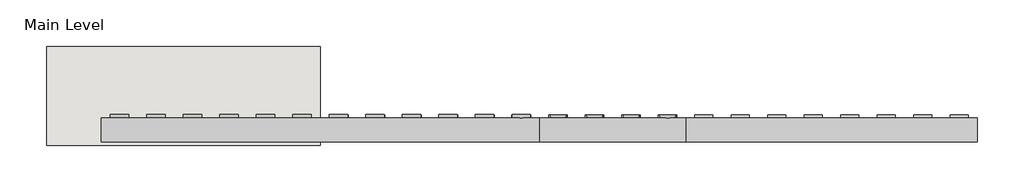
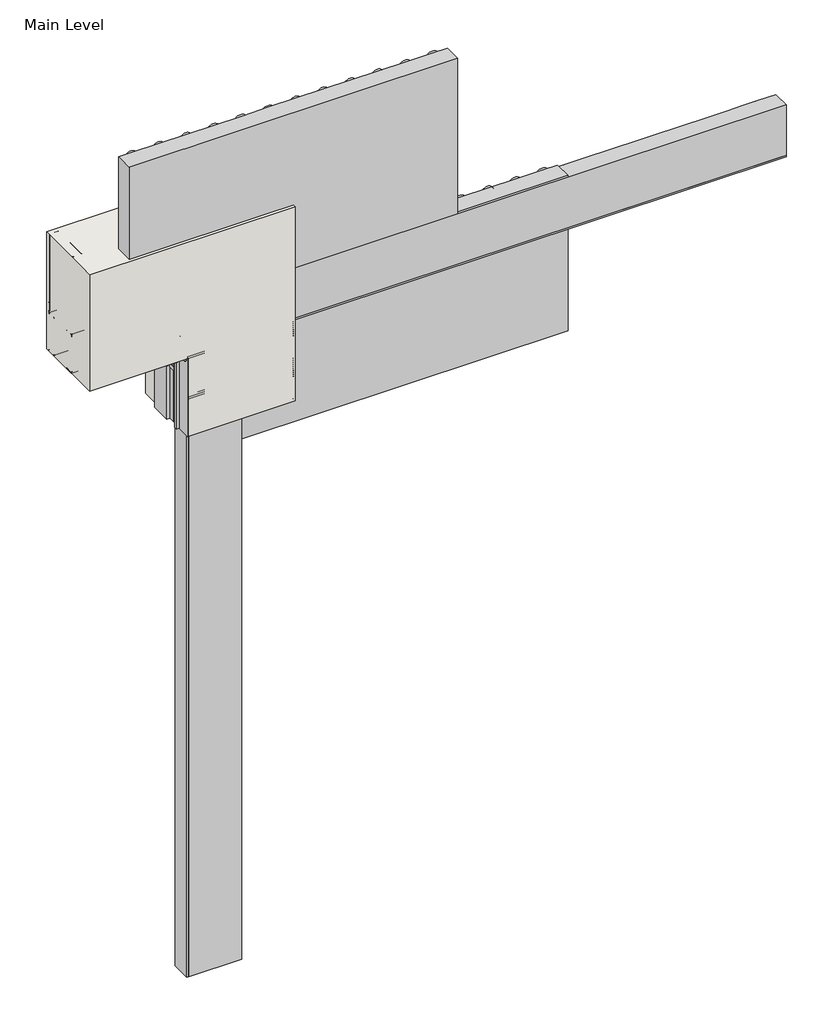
# One storey, incomplete: 26 proxies, 1 wall.
"""IFC4 building model written with IfcOpenShell, lengths in millimetres."""

from ifc_helpers import new_model, si_unit, frame, origin, place, context, project, spatial, polyline, outline, extrude, transform, mapped, element, save
from components import generic_models_31547c53, generic_models_0b6704b8, generic_models_233bf4a6, generic_models_0795693d, generic_models_cb092f88, generic_models_04f31e3c, generic_models_08e6521c, generic_models_d28646c3, proxy_4c3b85e5, proxy_50213ae0, proxy_cc65e3d2, finish_coat_filler_finish_coat_filler_f99f7fa1, masonry_sill_masonry_sill_15b803c6, masonry_sill1_masonry_sill_665cf46e, masonry_sill2_masonry_sill_6bf34fb1, proxy_a3fd9b0b, proxy_3a0ad636, proxy_0073da47, sealant_sealant_3a8dd322, window_header_window_header_abd4ef46, wood_blocking_5320d369

model = new_model("IFC4")

# Units and contexts
model_context = context("Model", 3, world=origin())
ifc_project = project(units=[si_unit("LENGTHUNIT", "METRE", prefix="MILLI")], contexts=[model_context])

# Site, building, storey
site = spatial("IfcSite", under=ifc_project)
building = spatial("IfcBuilding", under=site)
storey = spatial("IfcBuildingStorey", under=building, Name="Main Level", Elevation=0.0)

# Proxies
placement = place(None, origin())
generic_models_shape = generic_models_31547c53(model_context)
element("IfcBuildingElementProxy", 1, Name="Durabond Generic Model Sealant Vent : Durabond Generic Model Sealant Vent", ObjectType="Durabond Generic Model Sealant Vent : Durabond Generic Model Sealant Vent", at=placement, inside=storey, context=model_context, shape_type="MappedRepresentation", body=[
    mapped(generic_models_shape, transform((26800.7195523, 547.6393211, 304.2607023), x_axis=(1.0, 0.0, 0.0), y_axis=(0.0, 0.08715574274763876, -0.9961946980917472), z_axis=(0.0, 0.9961946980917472, 0.08715574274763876))),
])
generic_models_2_shape = generic_models_0b6704b8(model_context)
element("IfcBuildingElementProxy", 2, Name="Durabond Generic Model Insulation Adhesive Flat : Durabond Generic Model Insulation Adhesive Flat", ObjectType="Durabond Generic Model Insulation Adhesive Flat : Durabond Generic Model Insulation Adhesive Flat", at=placement, inside=storey, context=model_context, shape_type="MappedRepresentation", body=[
    mapped(generic_models_2_shape, transform((26692.3726773, 627.6316297, 381.0), x_axis=(1.0, 0.0, 0.0), y_axis=(0.0, 1.0, 0.0), z_axis=(0.0, 0.0, 1.0))),
])
element("IfcBuildingElementProxy", 3, Name="Durabond Generic Model Insulation Adhesive Flat : Durabond Generic Model Insulation Adhesive Flat", ObjectType="Durabond Generic Model Insulation Adhesive Flat : Durabond Generic Model Insulation Adhesive Flat", at=placement, inside=storey, context=model_context, shape_type="MappedRepresentation", body=[
    mapped(generic_models_2_shape, transform((26793.9726773, 627.6316297, 381.0), x_axis=(1.0, 0.0, 0.0), y_axis=(0.0, 1.0, 0.0), z_axis=(0.0, 0.0, 1.0))),
])
generic_models_3_shape = generic_models_233bf4a6(model_context)
element("IfcBuildingElementProxy", 4, Name="Durabond Generic Model Insulation Adhesive Flat : Durabond Generic Model Insulation Adhesive Flat", ObjectType="Durabond Generic Model Insulation Adhesive Flat : Durabond Generic Model Insulation Adhesive Flat", at=placement, inside=storey, context=model_context, shape_type="MappedRepresentation", body=[
    mapped(generic_models_3_shape, transform((26895.5726773, 627.6316297, 0.0), x_axis=(1.0, 0.0, 0.0), y_axis=(0.0, 1.0, 0.0), z_axis=(0.0, 0.0, 1.0))),
])
element("IfcBuildingElementProxy", 5, Name="Durabond Generic Model Insulation Adhesive Flat : Durabond Generic Model Insulation Adhesive Flat", ObjectType="Durabond Generic Model Insulation Adhesive Flat : Durabond Generic Model Insulation Adhesive Flat", at=placement, inside=storey, context=model_context, shape_type="MappedRepresentation", body=[
    mapped(generic_models_3_shape, transform((26997.1726773, 627.6316297, 0.0), x_axis=(1.0, 0.0, 0.0), y_axis=(0.0, 1.0, 0.0), z_axis=(0.0, 0.0, 1.0))),
])
element("IfcBuildingElementProxy", 6, Name="Durabond Generic Model Insulation Adhesive Flat : Durabond Generic Model Insulation Adhesive Flat", ObjectType="Durabond Generic Model Insulation Adhesive Flat : Durabond Generic Model Insulation Adhesive Flat", at=placement, inside=storey, context=model_context, shape_type="MappedRepresentation", body=[
    mapped(generic_models_3_shape, transform((27098.7726773, 627.6316297, 0.0), x_axis=(1.0, 0.0, 0.0), y_axis=(0.0, 1.0, 0.0), z_axis=(0.0, 0.0, 1.0))),
])
element("IfcBuildingElementProxy", 7, Name="Durabond Generic Model Insulation Adhesive Flat : Durabond Generic Model Insulation Adhesive Flat", ObjectType="Durabond Generic Model Insulation Adhesive Flat : Durabond Generic Model Insulation Adhesive Flat", at=placement, inside=storey, context=model_context, shape_type="MappedRepresentation", body=[
    mapped(generic_models_3_shape, transform((27200.3726773, 627.6316297, 0.0), x_axis=(1.0, 0.0, 0.0), y_axis=(0.0, 1.0, 0.0), z_axis=(0.0, 0.0, 1.0))),
])
generic_models_4_shape = generic_models_0795693d(model_context)
generic_models_5_shape = generic_models_cb092f88(model_context)
generic_models_6_shape = generic_models_04f31e3c(model_context)
generic_models_7_shape = generic_models_08e6521c(model_context)
element("IfcBuildingElementProxy", 8, Name="CRAi Generic Model Mesh Piece Face Based : CRAi Generic Model Mesh Piece Face Based", ObjectType="CRAi Generic Model Mesh Piece Face Based : CRAi Generic Model Mesh Piece Face Based", at=placement, inside=storey, context=model_context, shape_type="MappedRepresentation", body=[
    mapped(generic_models_4_shape, transform((27054.3226773, 541.9066297, 155.3366797), x_axis=(-1.0, 0.0, 0.0), y_axis=(0.0, 0.0, -1.0), z_axis=(0.0, -1.0, 0.0))),
    mapped(generic_models_5_shape, transform((27054.3226773, 541.9066297, 155.3366797), x_axis=(-1.0, 0.0, 0.0), y_axis=(0.0, 0.0, -1.0), z_axis=(0.0, -1.0, 0.0))),
    mapped(generic_models_6_shape, transform((27054.3226773, 541.9066297, 155.3366797), x_axis=(-1.0, 0.0, 0.0), y_axis=(0.0, 0.0, -1.0), z_axis=(0.0, -1.0, 0.0))),
    mapped(generic_models_7_shape, transform((27054.3226773, 541.9066297, 155.3366797), x_axis=(-1.0, 0.0, 0.0), y_axis=(0.0, 0.0, -1.0), z_axis=(0.0, -1.0, 0.0))),
])
generic_models_8_shape = generic_models_d28646c3(model_context)
element("IfcBuildingElementProxy", 9, Name="CRAi Generic Model Line Based Drip Deflector : CRAi Generic Model Line Based Drip Deflector", ObjectType="CRAi Generic Model Line Based Drip Deflector : CRAi Generic Model Line Based Drip Deflector", at=placement, inside=storey, context=model_context, shape_type="MappedRepresentation", body=[
    mapped(generic_models_8_shape, transform((26855.8851773, 541.5329375, 295.758643), x_axis=(0.0, 0.996194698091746, 0.08715574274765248), y_axis=(-1.0, 0.0, 0.0), z_axis=(0.0, -0.08715574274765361, 0.996194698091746))),
])
proxy_shape = proxy_4c3b85e5(model_context)
element("IfcBuildingElementProxy", 10, Name="Durabond Generic Model Quantum Select 5-0 Boundary Board : 3\"", ObjectType="Durabond Generic Model Quantum Select 5-0 Boundary Board : 3\"", at=placement, inside=storey, context=model_context, shape_type="MappedRepresentation", body=[
    mapped(proxy_shape, transform((26957.4851773, 624.4566297, -908.175778), x_axis=(0.0, 0.0, -1.0), y_axis=(1.0, 0.0, 0.0), z_axis=(0.0, -1.0, 0.0))),
])
proxy_2_shape = proxy_50213ae0(model_context)
element("IfcBuildingElementProxy", 11, Name="Durabond Generic Model Quantum Select 5-0 Insulation Board : 3\"", ObjectType="Durabond Generic Model Quantum Select 5-0 Insulation Board : 3\"", at=placement, inside=storey, context=model_context, shape_type="MappedRepresentation", body=[
    mapped(proxy_2_shape, transform((27251.1726773, 624.4566297, 819.024222), x_axis=(1.0, 0.0, 0.0), y_axis=(0.0, 0.0, 1.0), z_axis=(0.0, -1.0, 0.0))),
])
element("IfcBuildingElementProxy", 12, Name="Durabond Generic Model Quantum Select 5-0 Insulation Board : 3\"", ObjectType="Durabond Generic Model Quantum Select 5-0 Insulation Board : 3\"", at=placement, inside=storey, context=model_context, shape_type="MappedRepresentation", body=[
    mapped(proxy_2_shape, transform((27659.1601773, 624.4566297, 217.361722), x_axis=(1.0, 0.0, 0.0), y_axis=(0.0, 0.0, 1.0), z_axis=(0.0, -1.0, 0.0))),
])
proxy_3_shape = proxy_cc65e3d2(model_context)
element("IfcBuildingElementProxy", 13, Name="Durabond Generic Model Quantum Select 5-0 Vent Board : 3\"", ObjectType="Durabond Generic Model Quantum Select 5-0 Vent Board : 3\"", at=placement, inside=storey, context=model_context, shape_type="MappedRepresentation", body=[
    mapped(proxy_3_shape, transform((27860.7726773, 624.4566297, 412.624222), x_axis=(1.0, 0.0, 0.0), y_axis=(0.0, 0.0, 1.0), z_axis=(0.0, -1.0, 0.0))),
])
finish_coat_filler_finish_coat_filler_shape = finish_coat_filler_finish_coat_filler_f99f7fa1(model_context)
element("IfcBuildingElementProxy", 14, Name="Finish Coat Filler : Finish Coat Filler", ObjectType="Finish Coat Filler : Finish Coat Filler", at=placement, inside=storey, context=model_context, shape_type="MappedRepresentation", body=[
    mapped(finish_coat_filler_finish_coat_filler_shape, transform((0.0, 0.0, 0.0), x_axis=(1.0, 0.0, 0.0), y_axis=(0.0, 1.0, 0.0), z_axis=(0.0, 0.0, 1.0))),
])
masonry_sill_masonry_sill_shape = masonry_sill_masonry_sill_15b803c6(model_context)
element("IfcBuildingElementProxy", 15, Name="Masonry Sill : Masonry Sill", ObjectType="Masonry Sill : Masonry Sill", at=placement, inside=storey, context=model_context, shape_type="MappedRepresentation", body=[
    mapped(masonry_sill_masonry_sill_shape, transform((0.0, 0.0, 0.0), x_axis=(1.0, 0.0, 0.0), y_axis=(0.0, 1.0, 0.0), z_axis=(0.0, 0.0, 1.0))),
])
masonry_sill1_masonry_sill_shape = masonry_sill1_masonry_sill_665cf46e(model_context)
element("IfcBuildingElementProxy", 16, Name="Masonry Sill1 : Masonry Sill", ObjectType="Masonry Sill1 : Masonry Sill", at=placement, inside=storey, context=model_context, shape_type="MappedRepresentation", body=[
    mapped(masonry_sill1_masonry_sill_shape, transform((0.0, 0.0, 0.0), x_axis=(1.0, 0.0, 0.0), y_axis=(0.0, 1.0, 0.0), z_axis=(0.0, 0.0, 1.0))),
])
masonry_sill2_masonry_sill_shape = masonry_sill2_masonry_sill_6bf34fb1(model_context)
element("IfcBuildingElementProxy", 17, Name="Masonry Sill2 : Masonry Sill", ObjectType="Masonry Sill2 : Masonry Sill", at=placement, inside=storey, context=model_context, shape_type="MappedRepresentation", body=[
    mapped(masonry_sill2_masonry_sill_shape, transform((0.0, 0.0, 0.0), x_axis=(1.0, 0.0, 0.0), y_axis=(0.0, 1.0, 0.0), z_axis=(0.0, 0.0, 1.0))),
])
proxy_4_shape = proxy_a3fd9b0b(model_context)
element("IfcBuildingElementProxy", 18, Name="CRAi Generic Model Metal Stud : Metal Framing Stud - 1\" x 3.5\"", ObjectType="CRAi Generic Model Metal Stud : Metal Framing Stud - 1\" x 3.5\"", at=placement, inside=storey, context=model_context, shape_type="MappedRepresentation", body=[
    mapped(proxy_4_shape, transform((26876.5226773, 726.0566297, 0.0), x_axis=(1.0, 0.0, 0.0), y_axis=(0.0, 1.0, 0.0), z_axis=(0.0, 0.0, 1.0))),
])
proxy_5_shape = proxy_3a0ad636(model_context)
element("IfcBuildingElementProxy", 19, Name="CRAi Generic Model Metal Stud : Metal Framing Stud - 1\" x 3.5\"", ObjectType="CRAi Generic Model Metal Stud : Metal Framing Stud - 1\" x 3.5\"", at=placement, inside=storey, context=model_context, shape_type="MappedRepresentation", body=[
    mapped(proxy_5_shape, transform((26508.2226773, 726.0566297, 0.0), x_axis=(-1.0, 0.0, 0.0), y_axis=(0.0, -1.0, 0.0), z_axis=(0.0, 0.0, 1.0))),
])
element("IfcBuildingElementProxy", 20, Name="CRAi Generic Model Metal Stud : Metal Framing Stud - 1\" x 3.5\"", ObjectType="CRAi Generic Model Metal Stud : Metal Framing Stud - 1\" x 3.5\"", at=placement, inside=storey, context=model_context, shape_type="MappedRepresentation", body=[
    mapped(proxy_5_shape, transform((26876.5226773, 726.0566297, 0.0), x_axis=(-1.0, 0.0, 0.0), y_axis=(0.0, -1.0, 0.0), z_axis=(0.0, 0.0, 1.0))),
])
proxy_6_shape = proxy_0073da47(model_context)
element("IfcBuildingElementProxy", 21, Name="CRAi Generic Model Metal Stud : Metal Framing Stud - 1\" x 3.5\"", ObjectType="CRAi Generic Model Metal Stud : Metal Framing Stud - 1\" x 3.5\"", at=placement, inside=storey, context=model_context, shape_type="MappedRepresentation", body=[
    mapped(proxy_6_shape, transform((26914.6226773, 726.0566297, 0.0), x_axis=(1.0, 0.0, 0.0), y_axis=(0.0, 1.0, 0.0), z_axis=(0.0, 0.0, 1.0))),
])
sealant_sealant_shape = sealant_sealant_3a8dd322(model_context)
element("IfcBuildingElementProxy", 22, Name="Sealant : Sealant", ObjectType="Sealant : Sealant", at=placement, inside=storey, context=model_context, shape_type="MappedRepresentation", body=[
    mapped(sealant_sealant_shape, transform((0.0, 0.0, 0.0), x_axis=(1.0, 0.0, 0.0), y_axis=(0.0, 1.0, 0.0), z_axis=(0.0, 0.0, 1.0))),
])
window_header_window_header_shape = window_header_window_header_abd4ef46(model_context)
element("IfcBuildingElementProxy", 23, Name="Window Header : Window Header", ObjectType="Window Header : Window Header", at=placement, inside=storey, context=model_context, shape_type="MappedRepresentation", body=[
    mapped(window_header_window_header_shape, transform((0.0, 0.0, 0.0), x_axis=(1.0, 0.0, 0.0), y_axis=(0.0, 1.0, 0.0), z_axis=(0.0, 0.0, 1.0))),
])
wood_blocking_shape = wood_blocking_5320d369(model_context)
element("IfcBuildingElementProxy", 24, Name="CRAi Generic Model Line Based Metal Framing Track : Wood Blocking", ObjectType="CRAi Generic Model Line Based Metal Framing Track : Wood Blocking", at=placement, inside=storey, context=model_context, shape_type="MappedRepresentation", body=[
    mapped(wood_blocking_shape, transform((26489.1726773, 649.8566297, 304.8), x_axis=(1.0, 0.0, 0.0), y_axis=(0.0, 1.0, 0.0), z_axis=(0.0, 0.0, 1.0))),
])
element("IfcBuildingElementProxy", 25, Name="CRAi Generic Model Line Based Metal Framing Track : Wood Blocking", ObjectType="CRAi Generic Model Line Based Metal Framing Track : Wood Blocking", at=placement, inside=storey, context=model_context, shape_type="MappedRepresentation", body=[
    mapped(wood_blocking_shape, transform((26489.1726773, 802.257101, 457.2), x_axis=(1.0, 0.0, 0.0), y_axis=(0.0, -1.0, 0.0), z_axis=(0.0, 0.0, -1.0))),
])
element("IfcBuildingElementProxy", 26, Name="CRAi Generic Model Line Based Metal Framing Track : Wood Blocking", ObjectType="CRAi Generic Model Line Based Metal Framing Track : Wood Blocking", at=placement, inside=storey, context=model_context, shape_type="MappedRepresentation", body=[
    mapped(wood_blocking_shape, transform((26489.1726773, 649.8566297, 457.2), x_axis=(1.0, 0.0, 0.0), y_axis=(0.0, 1.0, 0.0), z_axis=(0.0, 0.0, 1.0))),
])

# Wall
element("IfcWall", 27, ObjectType="189mm (7.5”) EIFS Field Applied on Mtl. Stud Layer - 50mm Grooved Insulation Board Metal Stud Wall", at=placement, inside=storey, context=model_context, shape_type="SweptSolid", body=[
    extrude(outline(polyline([(0.0, 27251.1726773), (762.0, 27251.1726773), (762.0, 26489.1726773), (304.8, 26489.1726773), (304.8, 26857.4726773), (0.0, 26857.4726773), (0.0, 27251.1726773)])), frame((0.0, 538.7316297, 0.0), z_axis=(0.0, 1.0, 0.0), x_axis=(0.0, 0.0, 1.0)), (0.0, 0.0, 1.0), 276.225),
])

save(model, "model.ifc")
